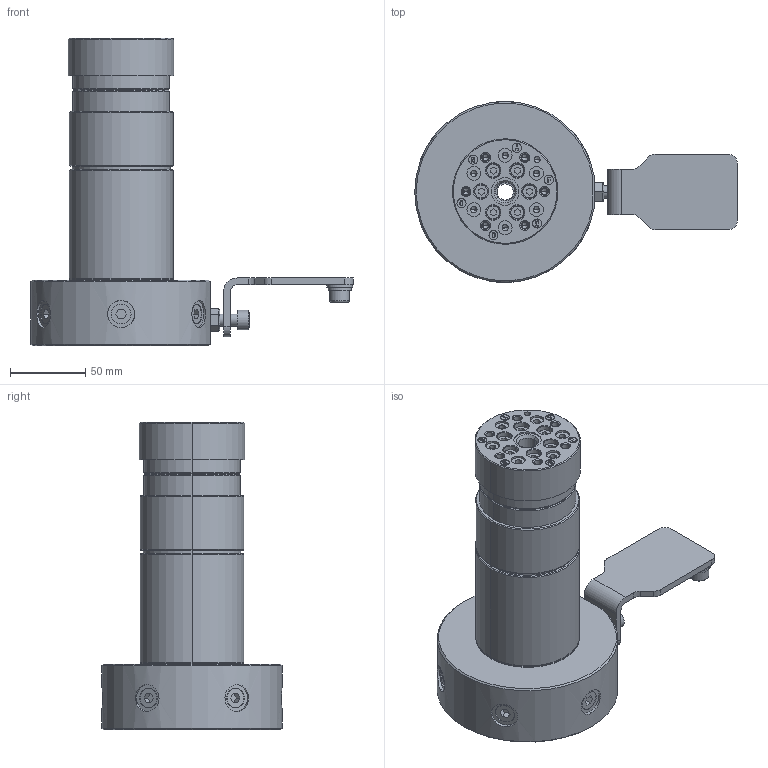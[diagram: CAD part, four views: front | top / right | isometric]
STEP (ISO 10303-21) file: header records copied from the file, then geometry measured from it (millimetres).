
FILE_DESCRIPTION (( 'STEP AP214' ), '1' );
FILE_NAME ('【掲載用】RJ70Z25Q01.STEP', '2019-10-11T05:23:39', ( '' ), ( '' ), 'SwSTEP 2.0', 'SolidWorks 2017', '' );
FILE_SCHEMA (( 'AUTOMOTIVE_DESIGN' ));
Length unit declared in the file: millimetre
Products named in the file (1): 【掲載用】RJ70Z25Q01
Bounding box: 214 x 120 x 204 mm (x, y, z)
Volume: 1046346.6 mm3; surface area: 136522.7 mm2
Topology: 4 solids, 5 shells, 1268 faces, 3132 edges, 2016 vertices
Faces by surface type: plane 666, cylinder 280, bspline 189, cone 133
Entity records: 58563 total; most frequent: CARTESIAN_POINT 15478, ORIENTED_EDGE 6144, DIRECTION 5468, EDGE_CURVE 3072, VECTOR 2036, LINE 2036, VERTEX_POINT 2016, AXIS2_PLACEMENT_3D 1716
